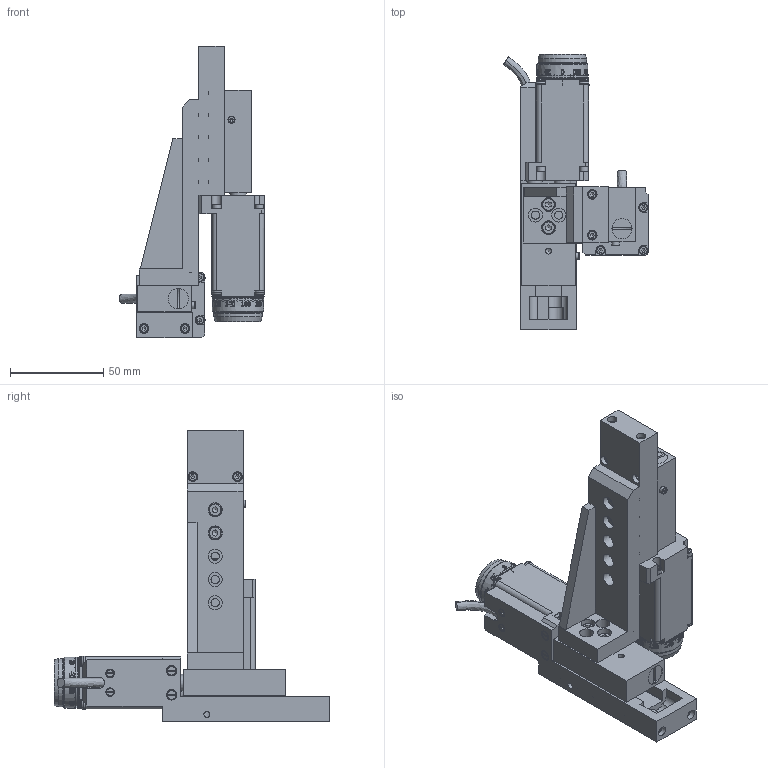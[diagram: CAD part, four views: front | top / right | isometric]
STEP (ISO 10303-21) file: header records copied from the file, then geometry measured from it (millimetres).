
FILE_DESCRIPTION(/* description */ (''),/* implementation_level */ '2;1');
FILE_NAME(/* name */ 'C:\Users\dsgn39.CENTRAS\Desktop\Internetui\8MT173-30XZ\8MT173-30XZ.stp',/* time_stamp */ '2019-02-14T11:57:23+02:00',/* author */ ('dsgn39'),/* organization */ (''),/* preprocessor_version */ 'ST-DEVELOPER v15.2',/* originating_system */ 'Autodesk Inventor 2014',/* authorisation */ '');
FILE_SCHEMA (('AUTOMOTIVE_DESIGN { 1 0 10303 214 3 1 1 }'));
Products named in the file (2): Part3; Assembly1
Bounding box: 78.04 x 148 x 156.75 mm (x, y, z)
Volume: 255715.7 mm3; surface area: 78045.5 mm2
Topology: 1 solids, 82 shells, 3756 faces, 9857 edges, 6468 vertices
Faces by surface type: plane 1959, cylinder 702, bspline 624, cone 247, torus 164, sphere 60
Full cylindrical faces by diameter (mm): 2 x4, 2.4 x4, 2.5 x53, 2.7 x20, 2.729 x8, 2.8 x29, 2.9 x6, 3 x26, 3.2 x6, 3.242 x6, 3.8 x2, 4 x4, 4.4 x4, 4.5 x54, 4.8 x20, 4.917 x4, 5 x17, 5.2 x28, 7 x4, 7.1 x2, 7.5 x9, 8.3 x2, 9 x2, 10.9 x2, 25 x2, 26 x2, 27.5 x2
Entity records: 236699 total; most frequent: CARTESIAN_POINT 152967, ORIENTED_EDGE 18074, DIRECTION 15147, EDGE_CURVE 9037, VERTEX_POINT 6225, AXIS2_PLACEMENT_3D 5411, EDGE_LOOP 4704, LINE 4325
